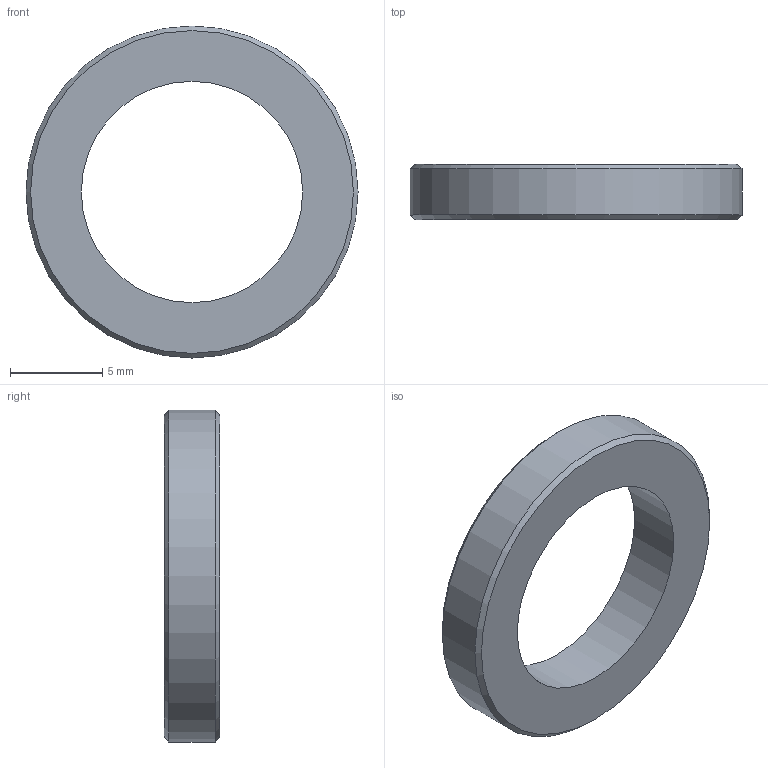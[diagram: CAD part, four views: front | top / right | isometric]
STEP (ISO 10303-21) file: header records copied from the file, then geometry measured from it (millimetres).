
FILE_DESCRIPTION(/* description */ ('','CAx-IF Rec.Pracs.---Representation and Presentation of Product Manufacturing Information (PMI)---4.0---2014-10-13'),/* implementation_level */ '2;1');
FILE_NAME(/* name */ 'Aluminium Spacer - 12mm - 3mm.step',/* time_stamp */ '2024-11-30T18:34:39+02:00',/* author */ (''),/* organization */ (''),/* preprocessor_version */ 'ST-DEVELOPER v20',/* originating_system */ 'Autodesk Translation Framework v13.20.0.188',/* authorisation */ '');
FILE_SCHEMA (('AP242_MANAGED_MODEL_BASED_3D_ENGINEERING_MIM_LF { 1 0 10303 442 1 1 4 }'));
Length unit declared in the file: millimetre
Products named in the file (1): Aluminium Spacer - 12mm - 3mm
Bounding box: 18 x 3 x 18 mm (x, y, z)
Volume: 420.6 mm3; surface area: 548.8 mm2
Topology: 1 solids, 1 shells, 6 faces, 10 edges, 6 vertices
Faces by surface type: cone 2, cylinder 2, plane 2
Full cylindrical faces by diameter (mm): 12 x1, 18 x1
Entity records: 181 total; most frequent: DIRECTION 30, CARTESIAN_POINT 23, ORIENTED_EDGE 20, AXIS2_PLACEMENT_3D 13, EDGE_CURVE 10, EDGE_LOOP 8, FACE_OUTER_BOUND 6, CIRCLE 6
